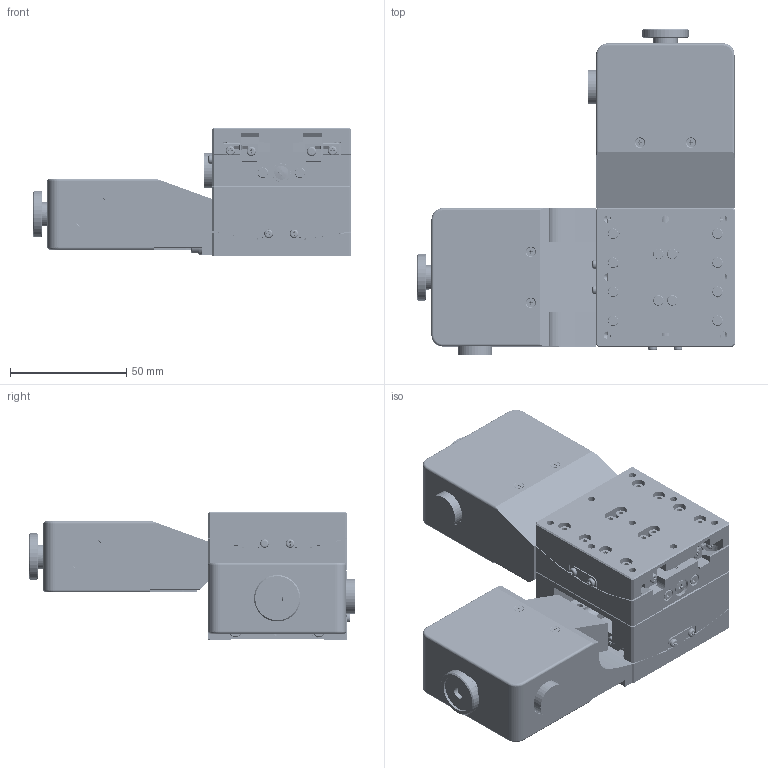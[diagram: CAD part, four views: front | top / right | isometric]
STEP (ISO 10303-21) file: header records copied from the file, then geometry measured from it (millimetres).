
FILE_DESCRIPTION((''),'2;1');
FILE_NAME('\\Fsv\WorkData\シグマ光機\061130_自動ｺﾞﾆｵｽﾃｰｼﾞ\SGSP\SGSP-60\SGSP-60B\SGSP-60B75\SGSP-60B75.stp','2006-12-08T10:09:51',('既定'),(''),'Autodesk Inventor 8','Autodesk Inventor 8','');
FILE_SCHEMA(('AUTOMOTIVE_DESIGN { 1 0 10303 214 1 1 1 1 }'));
Length unit declared in the file: millimetre
Products named in the file (4): Assembly4; AGS6075-M01-04002-S18; AGS6075-M01-04002-S19; AGS6075-M01-04002-S01
Assembly tree (3 placements, depth 2):
  Assembly4
    AGS6075-M01-04002-S18
    AGS6075-M01-04002-S19
    AGS6075-M01-04002-S01
Bounding box: 137 x 140.5 x 55 mm (x, y, z)
Volume: 286879.9 mm3; surface area: 156571.2 mm2
Topology: 3 solids, 185 shells, 6223 faces, 15532 edges, 9934 vertices
Faces by surface type: plane 3032, cylinder 1478, bspline 1061, cone 540, torus 108, sphere 4
Entity records: 204075 total; most frequent: CARTESIAN_POINT 55912, ORIENTED_EDGE 30890, DIRECTION 30628, EDGE_CURVE 15445, AXIS2_PLACEMENT_3D 10864, VERTEX_POINT 9934, VECTOR 8900, LINE 8900
